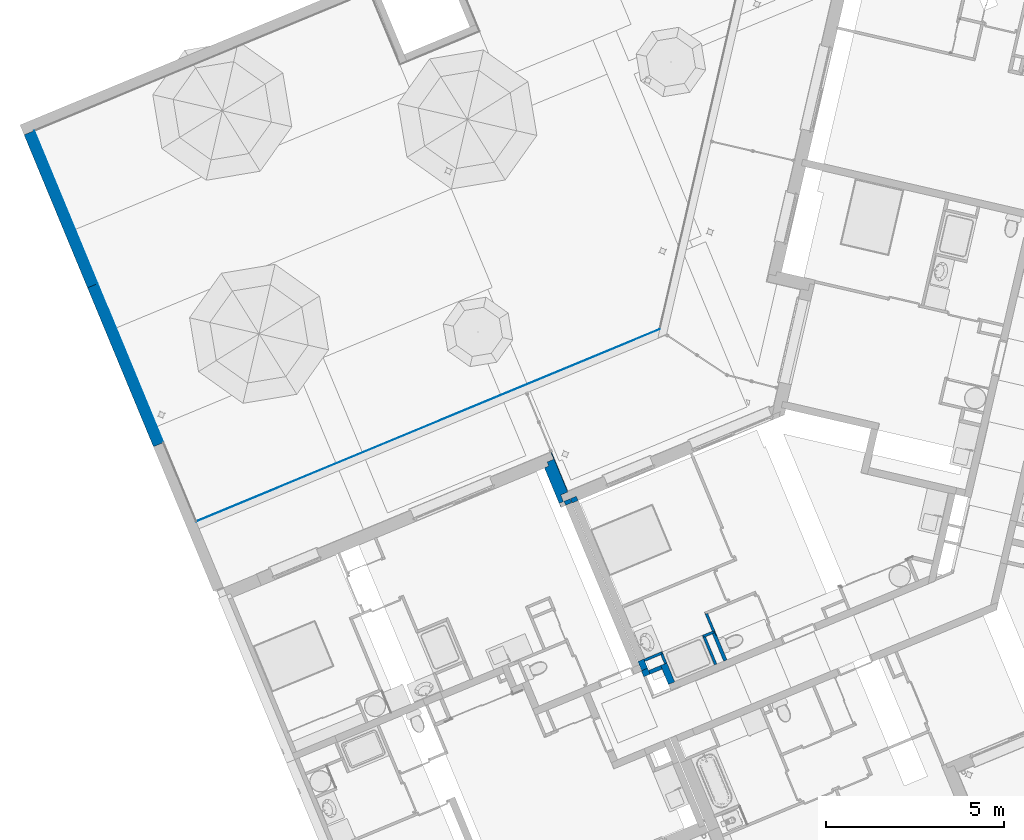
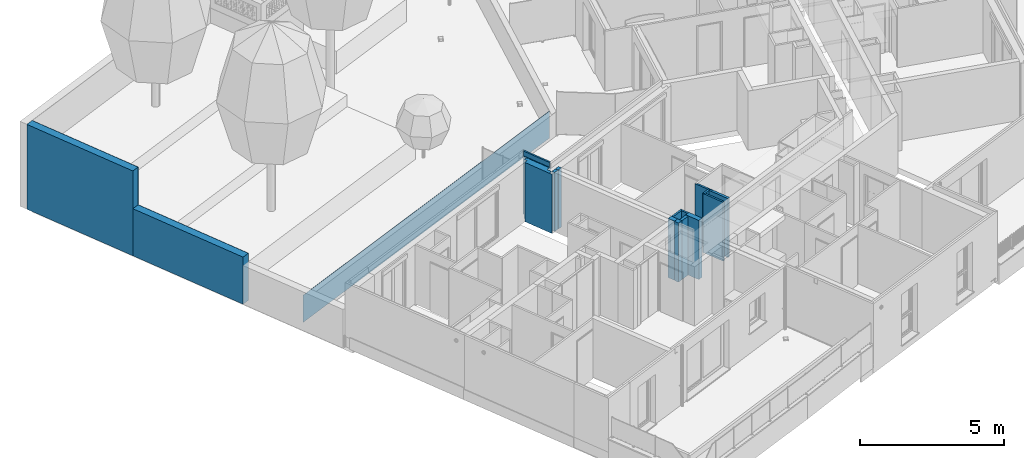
# One storey, part 41 of 119: 18 walls.
"""IFC2X3 building model written with IfcOpenShell, lengths in metres."""

from ifc_helpers import new_model, entity, si_unit, converted_unit, derived_unit, money_unit, direction, frame, origin_with_axes, place, context, subcontext, project, spatial, faceted_brep, material, material_list, type_object, element, save


model = new_model("IFC2X3")

# Units and contexts
model_context = context("Model", 3, precision=1e-05, world=origin_with_axes(), true_north=direction((0.0, 1.0)))
body_context = subcontext(model_context, "Body", "Model", "MODEL_VIEW")
ifc_project = project(units=[si_unit("LENGTHUNIT", "METRE"), si_unit("AREAUNIT", "SQUARE_METRE"), si_unit("VOLUMEUNIT", "CUBIC_METRE"), converted_unit("PLANEANGLEUNIT", "DEGREE", entity("IfcPlaneAngleMeasure", 0.0174532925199), si_unit("PLANEANGLEUNIT", "RADIAN"), dimensions=[0, 0, 0, 0, 0, 0, 0]), si_unit("SOLIDANGLEUNIT", "STERADIAN"), money_unit("EUR"), converted_unit("TIMEUNIT", "Year", entity("IfcTimeMeasure", 31556926.0), si_unit("TIMEUNIT", "SECOND"), dimensions=[0, 0, 1, 0, 0, 0, 0]), si_unit("MASSUNIT", "GRAM", prefix="KILO"), si_unit("THERMODYNAMICTEMPERATUREUNIT", "DEGREE_CELSIUS"), si_unit("LUMINOUSINTENSITYUNIT", "LUMEN"), si_unit("ENERGYUNIT", "JOULE", prefix="MEGA"), derived_unit("THERMALCONDUCTANCEUNIT", [(si_unit("POWERUNIT", "WATT"), 1), (si_unit("LENGTHUNIT", "METRE"), -1), (si_unit("THERMODYNAMICTEMPERATUREUNIT", "KELVIN"), -1)]), derived_unit("SPECIFICHEATCAPACITYUNIT", [(si_unit("ENERGYUNIT", "JOULE"), 1), (si_unit("MASSUNIT", "GRAM", prefix="KILO"), -1), (si_unit("THERMODYNAMICTEMPERATUREUNIT", "KELVIN"), -1)]), derived_unit("MASSDENSITYUNIT", [(si_unit("MASSUNIT", "GRAM", prefix="KILO"), 1), (si_unit("VOLUMEUNIT", "CUBIC_METRE"), -1)])], contexts=[model_context])

# Site, building, storey
site_placement = place(None, origin_with_axes())
site = spatial("IfcSite", under=ifc_project, at=site_placement, Name="Site", CompositionType="ELEMENT")
building_placement = place(site_placement, origin_with_axes())
building = spatial("IfcBuilding", under=site, at=building_placement, Name="Bâtiment", CompositionType="ELEMENT")
storey_placement = place(building_placement, origin_with_axes())
storey = spatial("IfcBuildingStorey", under=building, at=storey_placement, Name="Rez-de-chaussée", CompositionType="ELEMENT", Elevation=0.0)

# Walls
ifc_material_1 = material(Name="Béton")
wall_type_1 = type_object("IfcWallType", Name="Béton 300", PredefinedType="USERDEFINED")
wall_1_placement = place(storey_placement, frame((-40.5172807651, -5.0409499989, -0.03), z_axis=(0.0, 0.0, 1.0), x_axis=(0.383112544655, -0.923701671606, 0.0)))
element("IfcWall", 1, at=wall_1_placement, inside=storey, type_object=wall_type_1, material=ifc_material_1, Name="Voile projeté béton par passes alternées", ObjectType="SOLIDWALL", context=body_context, shape_type="Brep", body=[
    faceted_brep([(0.0, -0.3, 3.6), (4.64270582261, -0.3, 3.6), (4.64270582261, 0.0, 3.6), (0.0, 0.0, 3.6), (0.0, -0.3, 0.0), (4.64270582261, -0.3, 0.0), (4.64270582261, 0.0, 0.0), (0.0, 0.0, 0.0)], [[[0, 1, 2, 3]], [[4, 5, 1, 0]], [[2, 1, 5, 6]], [[3, 2, 6, 7]], [[4, 0, 3, 7]], [[7, 6, 5, 4]]]),
])
wall_2_placement = place(storey_placement, frame((-38.7386019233, -9.32942512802, -0.03), z_axis=(0.0, 0.0, 1.0), x_axis=(0.383112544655, -0.923701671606, 0.0)))
element("IfcWall", 2, at=wall_2_placement, inside=storey, type_object=wall_type_1, material=ifc_material_1, Name="Voile projeté béton par passes alternées", ObjectType="SOLIDWALL", context=body_context, shape_type="Brep", body=[
    faceted_brep([(0.0, -0.3, 2.0), (4.82319759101, -0.3, 2.0), (4.82319759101, 0.0, 2.0), (0.0, 0.0, 2.0), (0.0, -0.3, 0.0), (4.82319759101, -0.3, 0.0), (4.82319759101, 0.0, 0.0), (0.0, 0.0, 0.0)], [[[0, 1, 2, 3]], [[4, 5, 1, 0]], [[2, 1, 5, 6]], [[3, 2, 6, 7]], [[4, 0, 3, 7]], [[7, 6, 5, 4]]]),
])
ifc_material_2 = material(Name="Finition int - Plaque de plâtre")
ifc_material_3 = material(Name="Isolation - Laine de roche")
ifc_material_list_1 = material_list([ifc_material_2, ifc_material_3, ifc_material_2])
wall_type_2 = type_object("IfcWallType", Name="3 - Cloison 72mm Placostil 74", PredefinedType="USERDEFINED")
wall_3_placement = place(storey_placement, frame((-21.6551757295, -18.5120342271, 0.0), z_axis=(0.0, 0.0, 1.0), x_axis=(0.383112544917, -0.923701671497, 0.0)))
element("IfcWall", 3, at=wall_3_placement, inside=storey, type_object=wall_type_2, material=ifc_material_list_1, Name="Cloison Placostil 72/48", ObjectType="PARTITIONING", context=body_context, shape_type="Brep", body=[
    faceted_brep([(0.0740000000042, -0.013, 2.5), (0.573999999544, -0.013, 2.5), (0.573999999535, 0.0, 2.5), (0.074, 0.0, 2.5), (0.0740000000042, -0.013, 0.0), (0.573999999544, -0.013, 0.0), (0.573999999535, 0.0, 0.0), (0.074, 0.0, 0.0)], [[[0, 1, 2, 3]], [[4, 5, 1, 0]], [[5, 6, 2, 1]], [[3, 2, 6, 7]], [[4, 0, 3, 7]], [[7, 6, 5, 4]]]),
    faceted_brep([(0.0610000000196, -0.061, 2.5), (0.586999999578, -0.061, 2.5), (0.586999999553, -0.026, 2.5), (0.634999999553, -0.026, 2.5), (0.747999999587, -0.026, 2.5), (0.747999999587, -0.013, 2.5), (0.0610000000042, -0.013, 2.5), (0.0610000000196, -0.061, 0.0), (0.586999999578, -0.061, 0.0), (0.586999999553, -0.026, 0.0), (0.634999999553, -0.026, 0.0), (0.747999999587, -0.026, 0.0), (0.747999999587, -0.013, 0.0), (0.0610000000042, -0.013, 0.0)], [[[0, 1, 2, 3, 4, 5, 6]], [[7, 8, 1, 0]], [[9, 2, 1, 8]], [[4, 3, 2, 9, 10, 11]], [[5, 4, 11, 12]], [[12, 13, 6, 5]], [[7, 0, 6, 13]], [[10, 9, 8, 7, 13, 12, 11]]]),
    faceted_brep([(0.0130000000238, -0.074, 2.5), (0.573999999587, -0.074, 2.5), (0.573999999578, -0.061, 2.5), (0.0130000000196, -0.061, 2.5), (0.0130000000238, -0.074, 0.0), (0.573999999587, -0.074, 0.0), (0.573999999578, -0.061, 0.0), (0.0130000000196, -0.061, 0.0)], [[[0, 1, 2, 3]], [[4, 5, 1, 0]], [[5, 6, 2, 1]], [[3, 2, 6, 7]], [[4, 0, 3, 7]], [[7, 6, 5, 4]]]),
])
wall_type_3 = type_object("IfcWallType", Name="3 - Cloison Gaine Technique 72mm 74", PredefinedType="USERDEFINED")
wall_4_placement = place(storey_placement, frame((-23.5869322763, -19.9205844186, 0.0), z_axis=(0.0, 0.0, 1.0), x_axis=(0.923701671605, 0.383112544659, 0.0)))
element("IfcWall", 4, at=wall_4_placement, inside=storey, type_object=wall_type_3, material=ifc_material_list_1, Name="Cloison Placostil 72/48", ObjectType="PARTITIONING", context=body_context, shape_type="Brep", body=[
    faceted_brep([(0.735366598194, 0.0, 2.5), (0.18, -2.21493934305e-10, 2.5), (0.180000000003, -0.013, 2.5), (0.735366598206, -0.013, 2.5), (0.735366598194, 0.0, 0.0), (0.18, -2.21493934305e-10, 0.0), (0.180000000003, -0.013, 0.0), (0.735366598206, -0.013, 0.0)], [[[0, 1, 2, 3]], [[4, 5, 1, 0]], [[5, 6, 2, 1]], [[3, 2, 6, 7]], [[4, 0, 3, 7]], [[7, 6, 5, 4]]]),
    faceted_brep([(0.722366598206, -0.013, 2.5), (0.180000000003, -0.013, 2.5), (0.180000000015, -0.061, 2.5), (0.722366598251, -0.061, 2.5), (0.722366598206, -0.013, 0.0), (0.180000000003, -0.013, 0.0), (0.180000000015, -0.061, 0.0), (0.722366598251, -0.061, 0.0)], [[[0, 1, 2, 3]], [[4, 5, 1, 0]], [[5, 6, 2, 1]], [[3, 2, 6, 7]], [[4, 0, 3, 7]], [[7, 6, 5, 4]]]),
    faceted_brep([(0.674366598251, -0.061, 2.5), (0.180000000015, -0.061, 2.5), (0.180000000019, -0.074, 2.5), (0.674366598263, -0.074, 2.5), (0.674366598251, -0.061, 0.0), (0.180000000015, -0.061, 0.0), (0.180000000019, -0.074, 0.0), (0.674366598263, -0.074, 0.0)], [[[0, 1, 2, 3]], [[4, 5, 1, 0]], [[5, 6, 2, 1]], [[3, 2, 6, 7]], [[4, 0, 3, 7]], [[7, 6, 5, 4]]]),
])
wall_5_placement = place(storey_placement, frame((-21.7850134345, -19.1872981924, 0.0), z_axis=(0.0, 0.0, 1.0), x_axis=(0.923701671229, 0.383112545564, 0.0)))
element("IfcWall", 5, at=wall_5_placement, inside=storey, type_object=wall_type_3, material=ifc_material_list_1, Name="Cloison Placostil 72/48", ObjectType="PARTITIONING", context=body_context, shape_type="Brep", body=[
    faceted_brep([(0.0, -0.013, 0.0), (0.317633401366, -0.013, 0.0), (0.317633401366, -0.013, 2.5), (0.0, -0.013, 2.5), (0.0, 0.0, 0.0), (0.317633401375, 0.0, 0.0), (0.317633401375, 0.0, 2.5), (0.0, 0.0, 2.5)], [[[0, 1, 2, 3]], [[4, 5, 1, 0]], [[5, 6, 2, 1]], [[3, 2, 6, 7]], [[4, 0, 3, 7]], [[7, 6, 5, 4]]]),
    faceted_brep([(0.013, -0.061, 2.5), (0.352633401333, -0.061, 2.5), (0.352633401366, -0.013, 2.5), (0.013, -0.013, 2.5), (0.013, -0.061, 0.0), (0.352633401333, -0.061, 0.0), (0.352633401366, -0.013, 0.0), (0.013, -0.013, 0.0)], [[[0, 1, 2, 3]], [[4, 5, 1, 0]], [[6, 2, 1, 5]], [[3, 2, 6, 7]], [[7, 4, 0, 3]], [[7, 6, 5, 4]]]),
    faceted_brep([(0.061, -0.074, 2.5), (0.291633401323, -0.074, 2.5), (0.291633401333, -0.061, 2.5), (0.061, -0.061, 2.5), (0.061, -0.074, 0.0), (0.291633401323, -0.074, 0.0), (0.291633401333, -0.061, 0.0), (0.061, -0.061, 0.0)], [[[0, 1, 2, 3]], [[4, 5, 1, 0]], [[6, 2, 1, 5]], [[3, 2, 6, 7]], [[7, 4, 0, 3]], [[7, 6, 5, 4]]]),
])
wall_6_placement = place(storey_placement, frame((-21.7850134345, -19.1872981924, 0.0), z_axis=(0.0, 0.0, 1.0), x_axis=(0.383112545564, -0.923701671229, 0.0)))
element("IfcWall", 6, at=wall_6_placement, inside=storey, type_object=wall_type_3, material=ifc_material_list_1, Name="Cloison Placostil 72/48", ObjectType="PARTITIONING", context=body_context, shape_type="Brep", body=[
    faceted_brep([(0.074, 0.074, 0.0), (0.899999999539, 0.074, 0.0), (0.899999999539, 0.061, 0.0), (0.074, 0.061, 0.0), (0.074, 0.074, 2.5), (0.899999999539, 0.074, 2.5), (0.899999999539, 0.061, 2.5), (0.074, 0.061, 2.5)], [[[0, 1, 2, 3]], [[4, 5, 1, 0]], [[2, 1, 5, 6]], [[3, 2, 6, 7]], [[4, 0, 3, 7]], [[7, 6, 5, 4]]]),
    faceted_brep([(0.061, 0.061, 0.0), (0.899999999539, 0.061, 0.0), (0.899999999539, 0.013, 0.0), (0.061, 0.013, 0.0), (0.061, 0.061, 2.5), (0.899999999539, 0.061, 2.5), (0.899999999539, 0.013, 2.5), (0.061, 0.013, 2.5)], [[[0, 1, 2, 3]], [[4, 5, 1, 0]], [[2, 1, 5, 6]], [[3, 2, 6, 7]], [[4, 0, 3, 7]], [[7, 6, 5, 4]]]),
    faceted_brep([(0.013, 0.013, 0.0), (0.899999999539, 0.013, 0.0), (0.899999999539, 0.0, 0.0), (0.013, 0.0, 0.0), (0.013, 0.013, 2.5), (0.899999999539, 0.013, 2.5), (0.899999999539, 0.0, 2.5), (0.013, 0.0, 2.5)], [[[0, 1, 2, 3]], [[4, 5, 1, 0]], [[2, 1, 5, 6]], [[3, 2, 6, 7]], [[4, 0, 3, 7]], [[7, 6, 5, 4]]]),
])
wall_7_placement = place(storey_placement, frame((-22.9076729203, -19.6388562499, 0.0), z_axis=(0.0, 0.0, 1.0), x_axis=(0.383112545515, -0.923701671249, 0.0)))
element("IfcWall", 7, at=wall_7_placement, inside=storey, type_object=wall_type_3, material=ifc_material_list_1, Name="Cloison Placostil 72/48", ObjectType="PARTITIONING", context=body_context, shape_type="Brep", body=[
    faceted_brep([(0.0129999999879, -0.013, 2.5), (0.347364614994, -0.013, 2.5), (0.347364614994, 0.0, 2.5), (0.013, 0.0, 2.5), (0.0129999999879, -0.013, 0.0), (0.347364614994, -0.013, 0.0), (0.347364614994, 0.0, 0.0), (0.013, 0.0, 0.0)], [[[0, 1, 2, 3]], [[4, 5, 1, 0]], [[2, 1, 5, 6]], [[3, 2, 6, 7]], [[4, 0, 3, 7]], [[7, 6, 5, 4]]]),
    faceted_brep([(0.0609999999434, -0.061, 2.5), (0.347364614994, -0.061, 2.5), (0.347364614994, -0.013, 2.5), (0.0609999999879, -0.013, 2.5), (0.0609999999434, -0.061, 0.0), (0.347364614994, -0.061, 0.0), (0.347364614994, -0.013, 0.0), (0.0609999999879, -0.013, 0.0)], [[[0, 1, 2, 3]], [[4, 5, 1, 0]], [[2, 1, 5, 6]], [[3, 2, 6, 7]], [[4, 0, 3, 7]], [[7, 6, 5, 4]]]),
    faceted_brep([(0.0739999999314, -0.074, 2.5), (0.347364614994, -0.074, 2.5), (0.347364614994, -0.061, 2.5), (0.0739999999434, -0.061, 2.5), (0.0739999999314, -0.074, 0.0), (0.347364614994, -0.074, 0.0), (0.347364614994, -0.061, 0.0), (0.0739999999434, -0.061, 0.0)], [[[0, 1, 2, 3]], [[4, 5, 1, 0]], [[2, 1, 5, 6]], [[3, 2, 6, 7]], [[4, 0, 3, 7]], [[7, 6, 5, 4]]]),
])
ifc_material_4 = material(Name="Finition int - Enduit plâtre")
ifc_material_list_2 = material_list([ifc_material_4, ifc_material_1])
wall_type_4 = type_object("IfcWallType", Name="2 - Murs Béton 18 + Enduit 1 Face 190", PredefinedType="USERDEFINED")
wall_8_placement = place(storey_placement, frame((-22.950096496, -20.0325089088, 0.0), z_axis=(0.0, 0.0, 1.0), x_axis=(0.383112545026, -0.923701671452, 0.0)))
element("IfcWall", 8, at=wall_8_placement, inside=storey, type_object=wall_type_4, material=ifc_material_list_2, Name="M_Ext-008", ObjectType="SOLIDWALL", context=body_context, shape_type="Brep", body=[
    faceted_brep([(0.565635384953, 0.18, 2.51), (0.565635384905, 0.18, 0.0), (0.565635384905, 0.19, 0.0), (0.565635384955, 0.19, 2.51), (0.0, 0.18, 0.0), (0.0, 0.18, 2.51), (0.0, 0.19, 0.0), (0.0, 0.19, 2.51)], [[[0, 1, 2, 3]], [[4, 1, 0, 5]], [[6, 2, 1, 4]], [[3, 2, 6, 7]], [[5, 0, 3, 7]], [[4, 5, 7, 6]]]),
    faceted_brep([(0.575635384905, 0.0, 2.51), (0.575635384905, 0.0, 0.0), (0.575635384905, 0.18, 0.0), (0.575635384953, 0.18, 2.51), (0.0, 0.0, 0.0), (0.0, 0.0, 2.51), (0.0, 0.18, 0.0), (0.0, 0.18, 2.51)], [[[0, 1, 2, 3]], [[4, 1, 0, 5]], [[6, 2, 1, 4]], [[3, 2, 6, 7]], [[5, 0, 3, 7]], [[4, 5, 7, 6]]]),
])
ifc_material_list_3 = material_list([ifc_material_1, ifc_material_4])
wall_9_placement = place(storey_placement, frame((-23.4800102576, -20.178378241, 0.0), z_axis=(0.0, 0.0, 1.0), x_axis=(0.383112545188, -0.923701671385, 0.0)))
element("IfcWall", 9, at=wall_9_placement, inside=storey, type_object=wall_type_4, material=ifc_material_list_3, Name="M_Ext-008", ObjectType="SOLIDWALL", context=body_context, shape_type="Brep", body=[
    faceted_brep([(0.179276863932, 0.0, 2.5099999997), (0.179276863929, 0.0, 2.5), (0.179276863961, 0.18, 2.5), (0.179276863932, 0.18, 2.5099999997), (0.0, 0.0, 0.0), (0.179276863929, 0.0, 0.0), (0.0, 0.0, 2.51), (0.179276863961, 0.18, 0.0), (0.0, 0.18, 0.0), (0.0, 0.18, 2.51)], [[[0, 1, 2, 3]], [[4, 5, 1, 0, 6]], [[5, 7, 2, 1]], [[3, 2, 7, 8, 9]], [[6, 0, 3, 9]], [[8, 7, 5, 4]], [[8, 4, 6, 9]]]),
    faceted_brep([(0.179276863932, -0.01, 2.5099999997), (0.179276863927, -0.01, 2.5), (0.179276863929, 0.0, 2.5), (0.179276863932, 0.0, 2.5099999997), (0.0, -0.01, 0.0), (0.179276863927, -0.01, 0.0), (0.0, -0.01, 2.51), (0.179276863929, 0.0, 0.0), (0.0, 0.0, 0.0), (0.0, 0.0, 2.51)], [[[0, 1, 2, 3]], [[4, 5, 1, 0, 6]], [[5, 7, 2, 1]], [[3, 2, 7, 8, 9]], [[6, 0, 3, 9]], [[8, 7, 5, 4]], [[8, 4, 6, 9]]]),
])
wall_type_5 = type_object("IfcWallType", Name="Béton 180", PredefinedType="USERDEFINED")
wall_10_placement = place(storey_placement, frame((-23.5869322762, -19.9205844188, 0.0), z_axis=(0.0, 0.0, 1.0), x_axis=(0.383112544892, -0.923701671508, 0.0)))
element("IfcWall", 10, at=wall_10_placement, inside=storey, type_object=wall_type_5, material=ifc_material_1, Name="M_Ext-008", ObjectType="SOLIDWALL", context=body_context, shape_type="Brep", body=[
    faceted_brep([(0.279087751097, 0.18, 0.0), (0.279087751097, 0.0, 0.0), (0.0, 0.0, 0.0), (0.0, 0.18, 0.0), (0.279087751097, 0.18, 2.51), (0.279087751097, 0.0, 2.51), (0.0, 0.0, 2.51), (0.0, 0.18, 2.51)], [[[0, 1, 2, 3]], [[0, 4, 5, 1]], [[1, 5, 6, 2]], [[3, 2, 6, 7]], [[4, 0, 3, 7]], [[5, 4, 7, 6]]]),
])
wall_11_placement = place(storey_placement, frame((-25.4894111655, -15.3597237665, 0.0), z_axis=(0.0, 0.0, 1.0), x_axis=(0.383112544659, -0.923701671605, 0.0)))
element("IfcWall", 11, at=wall_11_placement, inside=storey, type_object=wall_type_5, material=ifc_material_1, Name="M_Ext-008", ObjectType="SOLIDWALL", context=body_context, shape_type="Brep", body=[
    faceted_brep([(0.0, 0.0, 0.0), (0.0, -1.31782229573e-09, 2.51), (0.119999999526, -1.28752830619e-09, 2.51), (0.119999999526, 0.0, 0.0), (0.0, -0.18, 0.0), (0.0, -0.18, 2.51), (0.119999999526, -0.18, 2.51), (0.119999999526, -0.18, 0.0)], [[[0, 1, 2, 3]], [[4, 5, 1, 0]], [[5, 6, 2, 1]], [[3, 2, 6, 7]], [[4, 0, 3, 7]], [[7, 6, 5, 4]]]),
])
wall_12_placement = place(storey_placement, frame((-25.4801741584, -15.3558926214, 0.0), z_axis=(0.0, 0.0, 1.0), x_axis=(0.383112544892, -0.923701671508, 0.0)))
element("IfcWall", 12, at=wall_12_placement, inside=storey, type_object=wall_type_5, material=ifc_material_1, Name="M_Ext-008", ObjectType="SOLIDWALL", context=body_context, shape_type="Brep", body=[
    faceted_brep([(0.0, 0.18, 0.0), (0.0, 0.18, 2.51), (0.130000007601, 0.18, 2.51), (0.130000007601, 0.18, 0.0), (0.0, 0.0, 0.0), (0.0, 3.90128107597e-09, 2.51), (0.130000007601, 3.85107767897e-09, 2.51), (0.130000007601, 0.0, 0.0)], [[[0, 1, 2, 3]], [[4, 5, 1, 0]], [[5, 6, 2, 1]], [[3, 2, 6, 7]], [[4, 0, 3, 7]], [[7, 6, 5, 4]]]),
])
ifc_material_5 = material(Name="Isolation - Polystyrène extrudé")
ifc_material_6 = material(Name="Bloc ELITHERM")
ifc_material_7 = material(Name="Mortier")
ifc_material_8 = material(Name="Béton cellulaire")
ifc_material_9 = material(Name="Etanchéité - Bitume")
ifc_material_10 = material(Name="Finition ext - Crépis")
ifc_material_11 = material(Name="Métal - Aluminium")
ifc_material_list_4 = material_list([ifc_material_2, ifc_material_5, ifc_material_6, ifc_material_7, ifc_material_8, ifc_material_9, ifc_material_10, ifc_material_11])
wall_type_6 = type_object("IfcWallType", Name="Mur ALKERN + planelle 21 TERRASSE RDC 356 x 2720", PredefinedType="USERDEFINED")
wall_13_placement = place(storey_placement, frame((-25.5579248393, -15.1553812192, 0.0), z_axis=(0.0, 0.0, 1.0), x_axis=(-0.383112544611, 0.923701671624, 0.0)))
element("IfcWall", 13, at=wall_13_placement, inside=storey, type_object=wall_type_6, material=ifc_material_list_4, Name="Mue bloc ALKERN isolé", ObjectType="SOLIDWALL", context=body_context, shape_type="Brep", body=[
    faceted_brep([(0.855000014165, 0.335000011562, 0.176532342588), (0.855000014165, 0.335000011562, 0.207793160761), (0.855000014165, 0.335000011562, 2.50955001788), (-0.335000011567, 0.335000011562, 2.50955001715), (-0.335000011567, 0.335000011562, 0.207793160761), (-0.335000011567, 0.335000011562, 0.176532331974), (-0.335000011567, 0.335000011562, 0.169414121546), (-0.335000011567, 0.335000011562, 0.160000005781), (-0.335000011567, 0.335000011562, 0.133633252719), (-0.335000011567, 0.335000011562, 0.0), (0.855000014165, 0.335000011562, 0.0), (0.855000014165, 0.335000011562, 0.1336332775), (0.855000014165, 0.335000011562, 0.160000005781), (0.855000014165, 0.335000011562, 0.169414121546), (0.855000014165, 0.344999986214, 0.176532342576), (0.855000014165, 0.344999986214, 0.207793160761), (0.855000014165, 0.344999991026, 2.50955001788), (-0.335000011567, 0.345000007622, 2.50955001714), (-0.335000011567, 0.345000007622, 0.207793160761), (-0.335000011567, 0.345000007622, 0.176532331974), (-0.335000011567, 0.345000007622, 0.169414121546), (-0.335000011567, 0.345000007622, 0.160000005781), (-0.335000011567, 0.345000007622, 0.133633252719), (-0.335000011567, 0.345000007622, 0.0), (0.855000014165, 0.344999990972, 0.0), (0.855000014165, 0.344999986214, 0.133633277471), (0.855000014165, 0.344999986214, 0.160000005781), (0.855000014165, 0.344999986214, 0.169414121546)], [[[0, 1, 2, 3, 4, 5, 6, 7, 8, 9, 10, 11, 12, 13]], [[14, 15, 1, 0]], [[15, 16, 2, 1]], [[3, 2, 16, 17]], [[18, 4, 3, 17]], [[5, 4, 18, 19]], [[19, 20, 6, 5]], [[6, 20, 21, 7]], [[22, 8, 7, 21]], [[9, 8, 22, 23]], [[9, 23, 24, 10]], [[11, 10, 24, 25]], [[25, 26, 12, 11]], [[27, 13, 12, 26]], [[13, 27, 14, 0]], [[17, 16, 15, 14, 27, 26, 25, 24, 23, 22, 21, 20, 19, 18]]]),
    faceted_brep([(0.864999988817, 0.21499997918, 0.176532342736), (0.864999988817, 0.21499997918, 0.207793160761), (0.864999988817, 0.21499997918, 2.50955001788), (-0.214999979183, 0.21499997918, 2.50955001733), (-0.214999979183, 0.21499997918, 0.207793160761), (-0.214999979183, 0.21499997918, 0.176532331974), (-0.214999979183, 0.21499997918, 0.169414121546), (-0.214999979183, 0.21499997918, 0.160000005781), (-0.214999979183, 0.21499997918, 0.133633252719), (-0.214999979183, 0.21499997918, 0.0), (0.864999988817, 0.21499997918, 0.0), (0.864999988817, 0.21499997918, 0.133633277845), (0.864999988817, 0.21499997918, 0.160000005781), (0.864999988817, 0.21499997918, 0.169414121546), (0.864999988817, 0.335000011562, 0.176532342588), (0.864999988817, 0.335000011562, 0.207793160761), (0.864999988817, 0.335000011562, 2.50955001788), (-0.214999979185, 0.335000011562, 2.50955001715), (-0.214999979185, 0.335000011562, 0.207793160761), (-0.214999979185, 0.335000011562, 0.176532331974), (-0.214999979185, 0.335000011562, 0.169414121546), (-0.214999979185, 0.335000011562, 0.160000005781), (-0.214999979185, 0.335000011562, 0.133633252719), (-0.214999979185, 0.335000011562, 0.0), (0.864999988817, 0.335000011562, 0.0), (0.864999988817, 0.335000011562, 0.1336332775), (0.864999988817, 0.335000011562, 0.160000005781), (0.864999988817, 0.335000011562, 0.169414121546)], [[[0, 1, 2, 3, 4, 5, 6, 7, 8, 9, 10, 11, 12, 13]], [[14, 15, 1, 0]], [[15, 16, 2, 1]], [[3, 2, 16, 17]], [[4, 3, 17, 18]], [[4, 18, 19, 5]], [[20, 6, 5, 19]], [[20, 21, 7, 6]], [[8, 7, 21, 22]], [[8, 22, 23, 9]], [[9, 23, 24, 10]], [[11, 10, 24, 25]], [[25, 26, 12, 11]], [[27, 13, 12, 26]], [[13, 27, 14, 0]], [[17, 16, 15, 14, 27, 26, 25, 24, 23, 22, 21, 20, 19, 18]]]),
    faceted_brep([(0.98500000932, 0.015, 0.207793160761), (0.98500000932, 0.015, 2.50955001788), (-0.0150000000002, 0.015, 2.50955001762), (-0.0150000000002, 0.015, 0.207793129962), (0.98500000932, 0.0829999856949, 2.50955001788), (0.98500000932, 0.0160453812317, 0.207793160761), (0.98500000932, 0.214999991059, 0.207793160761), (0.98500000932, 0.214999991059, 2.50955001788), (-0.0150000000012, 0.0829999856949, 2.50955001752), (-0.015000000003, 0.214999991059, 0.207793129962), (-0.0150000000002, 0.0160453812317, 0.207793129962), (-0.015000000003, 0.214999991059, 2.50955001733), (0.98500000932, 0.0160453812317, 0.176532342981), (0.98500000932, 0.214999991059, 0.176532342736), (0.98500000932, 0.214999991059, 0.169414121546), (0.98500000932, 0.214999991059, 0.160000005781), (0.98500000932, 0.214999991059, 0.133633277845), (0.98500000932, 0.214999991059, 0.0), (-0.015000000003, 0.214999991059, 0.0), (-0.0150000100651, 0.214999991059, 0.133633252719), (-0.0150000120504, 0.214999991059, 0.160000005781), (-0.015000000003, 0.214999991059, 0.169414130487), (-0.0160453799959, 0.214999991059, 0.169727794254), (-0.0160453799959, 0.214999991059, 0.176532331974), (-0.0160453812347, 0.214999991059, 0.207793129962), (-0.0160453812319, 0.0160453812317, 0.207793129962), (-0.0160453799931, 0.0160453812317, 0.176532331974), (-0.0160453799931, 0.0160453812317, 0.169727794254), (0.98500000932, 0.0160453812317, 0.169727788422), (0.98500000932, 0.015, 0.169414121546), (0.98500000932, 0.0150000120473, 0.160000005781), (0.98500000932, 0.015, 0.133633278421), (0.98500000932, 0.015, 0.0), (-0.0150000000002, 0.015, 0.0), (-0.0150000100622, 0.015, 0.133633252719), (-0.0150000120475, 0.0150000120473, 0.160000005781), (-0.0150000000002, 0.015, 0.169414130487)], [[[0, 1, 2, 3]], [[4, 1, 0, 5, 6, 7]], [[1, 4, 8, 2]], [[9, 10, 3, 2, 8, 11]], [[5, 0, 3, 10]], [[6, 5, 12, 13]], [[7, 6, 13, 14, 15, 16, 17, 18, 19, 20, 21, 22, 23, 24, 9, 11]], [[4, 7, 11, 8]], [[10, 9, 24, 25]], [[12, 5, 10, 25, 26, 27, 28]], [[13, 12, 28, 29, 14]], [[29, 30, 15, 14]], [[15, 30, 31, 16]], [[32, 17, 16, 31]], [[18, 17, 32, 33]], [[18, 33, 34, 19]], [[20, 19, 34, 35]], [[35, 36, 21, 20]], [[22, 21, 36, 27]], [[26, 23, 22, 27]], [[23, 26, 25, 24]], [[28, 27, 36, 29]], [[30, 29, 36, 35]], [[35, 34, 33, 32, 31, 30]]]),
    faceted_brep([(1.11700000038, 0.015, 2.50955), (1.11700000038, 0.015, 2.51), (1.11700000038, 0.015, 2.52), (-0.0150000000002, 0.015, 2.51999998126), (-0.0150000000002, 0.015, 2.51), (-0.0150000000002, 0.015, 2.50955001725), (1.11700000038, 0.083, 2.51), (1.11700000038, 0.0829999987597, 2.50955), (1.11700000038, 0.083000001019, 2.52), (-0.0150000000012, 0.0830000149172, 2.51999998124), (-0.0150000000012, 0.0829999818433, 2.51), (-0.0150000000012, 0.0829999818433, 2.50955001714)], [[[0, 1, 2, 3, 4, 5]], [[6, 1, 0, 7]], [[1, 6, 8, 2]], [[9, 3, 2, 8]], [[10, 4, 3, 9]], [[5, 4, 10, 11]], [[7, 0, 5, 11]], [[6, 7, 11, 10, 9, 8]]]),
    faceted_brep([(1.13700000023, 0.015, 2.51999999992), (1.13700000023, 0.015, 2.71999999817), (-0.0150000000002, 0.015, 2.71999999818), (-0.0150000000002, 0.015, 2.51999998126), (1.13700000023, 0.0630000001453, 2.71999999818), (1.13700000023, 0.0630000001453, 2.51999999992), (-0.0150000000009, 0.0630000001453, 2.71999999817), (-0.0150000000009, 0.0630000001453, 2.51999998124)], [[[0, 1, 2, 3]], [[4, 1, 0, 5]], [[1, 4, 6, 2]], [[3, 2, 6, 7]], [[5, 0, 3, 7]], [[4, 5, 7, 6]]]),
    faceted_brep([(-0.00500000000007, 0.00508333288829, 0.0), (-0.00500000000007, 0.00508333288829, 0.01), (-0.00500000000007, 0.005, 0.01), (-0.00500000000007, 0.005, 0.133633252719), (-0.00500000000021, 0.0150000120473, 0.133633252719), (-0.00500000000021, 0.0150000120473, 0.0), (1.18500001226, 0.0149999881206, 0.0), (1.18500001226, 0.0149999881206, 0.01), (1.18499998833, 0.00500000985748, 0.01), (1.18499998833, 0.00500000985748, 0.13363327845), (1.18499998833, 0.005, 0.160000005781), (-0.00500000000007, 0.005, 0.160000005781), (-0.00500000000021, 0.0150000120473, 0.160000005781), (1.18499998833, 0.0150000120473, 0.160000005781), (1.18499998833, 0.0150000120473, 0.133633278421)], [[[0, 1, 2, 3, 4, 5]], [[1, 0, 6, 7]], [[8, 2, 1, 7]], [[2, 8, 9, 10, 11, 3]], [[4, 3, 11, 12]], [[7, 6, 5, 4, 12, 13, 14]], [[6, 0, 5]], [[8, 7, 14, 9]], [[14, 13, 10, 9]], [[11, 10, 13, 12]]]),
    faceted_brep([(1.18500000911, -1.78520807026e-08, 2.71999999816), (-3.18861737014e-09, 3.18861737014e-09, 2.71999999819), (-3.18861737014e-09, 3.18861381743e-09, 0.176532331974), (1.18499996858, -3.24618660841e-08, 0.176532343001), (1.18500000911, 0.0149999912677, 2.71999999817), (-3.18882875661e-09, 0.0149999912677, 2.71999999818), (-3.18883053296e-09, 0.0150000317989, 0.176532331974), (1.18499996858, 0.0150000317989, 0.176532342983)], [[[0, 1, 2, 3]], [[1, 0, 4, 5]], [[2, 1, 5, 6]], [[7, 3, 2, 6]], [[4, 0, 3, 7]], [[5, 4, 7, 6]]]),
    faceted_brep([(1.18395460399, 0.0150000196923, 0.176532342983), (1.18395460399, 0.015, 0.207793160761), (-0.0150000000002, 0.015, 0.207793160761), (-0.0150000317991, 0.0150000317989, 0.176532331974), (1.18395460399, 0.0160453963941, 0.207793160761), (1.18395460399, 0.0160453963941, 0.176532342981), (-0.0150000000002, 0.0160453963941, 0.207793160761), (-0.0150000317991, 0.0160453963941, 0.176532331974), (-0.0150000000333, 0.015, 0.17077486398), (1.18395460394, 0.0150000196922, 0.170774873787), (1.18395460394, 0.0114705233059, 0.169727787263), (1.18395460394, 0.0160453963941, 0.169727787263), (-0.011470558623, 0.0160453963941, 0.169727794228), (-0.0150000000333, 0.0160453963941, 0.17077486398), (-0.0104132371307, 0.0104132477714, 0.169414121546), (0.0114392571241, -0.0114392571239, 0.162931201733), (1.2066098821, -0.0114392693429, 0.162931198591), (1.1850000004, 0.010413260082, 0.169414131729), (1.1850000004, 0.015, 0.169414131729), (-0.0104132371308, 0.015, 0.169414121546), (0.011439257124, -0.00660987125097, 0.162931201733), (0.0114392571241, -0.0114392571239, 0.160000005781), (0.0114392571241, -0.0114392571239, 0.133633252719), (1.21020517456, -0.0114392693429, 0.133633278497), (1.21020517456, -0.0114392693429, 0.160000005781), (1.21020517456, -0.0114392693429, 0.161852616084), (1.21020517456, -0.0102051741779, 0.161852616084), (0.011439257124, -0.0102051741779, 0.161852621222), (0.011439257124, -0.0102051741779, 0.160000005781), (0.011439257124, -0.0102051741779, 0.133633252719), (1.21020517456, -0.0102051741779, 0.133633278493), (1.21020517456, -0.0102051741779, 0.160000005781)], [[[0, 1, 2, 3]], [[4, 1, 0, 5]], [[1, 4, 6, 2]], [[6, 7, 3, 2]], [[3, 8, 9, 0]], [[5, 0, 9, 10, 11]], [[4, 5, 11, 12, 13, 7, 6]], [[13, 8, 3, 7]], [[9, 8, 14, 15, 16, 17, 10]], [[18, 11, 10, 17]], [[19, 12, 11, 18]], [[13, 12, 19, 14, 8]], [[19, 20, 15, 14]], [[15, 21, 22, 23, 24, 25, 16]], [[26, 18, 17, 16, 25]], [[19, 18, 26, 27, 20]], [[27, 28, 21, 15, 20]], [[21, 28, 29, 22]], [[29, 30, 23, 22]], [[24, 23, 30, 31]], [[24, 31, 26, 25]], [[31, 30, 29, 28, 27, 26]]]),
])
ifc_material_list_5 = material_list([ifc_material_2, ifc_material_2, ifc_material_3, ifc_material_2, ifc_material_2])
wall_type_7 = type_object("IfcWallType", Name="3 - Cloison Gaine Technique 98mm 100", PredefinedType="USERDEFINED")
wall_14_placement = place(storey_placement, frame((-21.4352691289, -19.0422389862, 0.0), z_axis=(0.0, 0.0, 1.0), x_axis=(0.383112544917, -0.923701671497, 0.0)))
element("IfcWall", 14, at=wall_14_placement, inside=storey, type_object=wall_type_7, material=ifc_material_list_5, Name="Cloison 98 isolée", ObjectType="PARTITIONING", context=body_context, shape_type="Brep", body=[
    faceted_brep([(0.0, 0.0, 2.5), (0.0, -0.013, 2.5), (0.900000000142, -0.013, 2.5), (0.900000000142, 0.0, 2.5), (0.0, 0.0, 0.0), (0.0, -0.013, 0.0), (0.900000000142, -0.013, 0.0), (0.900000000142, 0.0, 0.0)], [[[0, 1, 2, 3]], [[4, 5, 1, 0]], [[1, 5, 6, 2]], [[7, 3, 2, 6]], [[4, 0, 3, 7]], [[5, 4, 7, 6]]]),
    faceted_brep([(0.900000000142, -0.013, 0.0), (0.174000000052, -0.013, 0.0), (0.174000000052, -0.013, 2.5), (0.900000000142, -0.013, 2.5), (0.900000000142, -0.026, 0.0), (0.174000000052, -0.026, 0.0), (0.174000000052, -0.026, 2.5), (0.900000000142, -0.026, 2.5)], [[[0, 1, 2, 3]], [[4, 5, 1, 0]], [[5, 6, 2, 1]], [[3, 2, 6, 7]], [[0, 3, 7, 4]], [[7, 6, 5, 4]]]),
    faceted_brep([(0.0610000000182, -0.026, 2.5), (0.0610000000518, -0.074, 2.5), (0.900000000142, -0.074, 2.5), (0.900000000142, -0.026, 2.5), (0.0610000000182, -0.026, 0.0), (0.0610000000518, -0.074, 0.0), (0.900000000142, -0.074, 0.0), (0.900000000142, -0.026, 0.0)], [[[0, 1, 2, 3]], [[4, 5, 1, 0]], [[1, 5, 6, 2]], [[7, 3, 2, 6]], [[4, 0, 3, 7]], [[5, 4, 7, 6]]]),
    faceted_brep([(0.0610000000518, -0.074, 2.5), (0.0610000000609, -0.087, 2.5), (0.900000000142, -0.087, 2.5), (0.900000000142, -0.074, 2.5), (0.0610000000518, -0.074, 0.0), (0.0610000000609, -0.087, 0.0), (0.900000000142, -0.087, 0.0), (0.900000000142, -0.074, 0.0)], [[[0, 1, 2, 3]], [[4, 5, 1, 0]], [[1, 5, 6, 2]], [[7, 3, 2, 6]], [[4, 0, 3, 7]], [[5, 4, 7, 6]]]),
    faceted_brep([(0.0740000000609, -0.087, 2.5), (0.07400000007, -0.1, 2.5), (0.900000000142, -0.1, 2.5), (0.900000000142, -0.087, 2.5), (0.0740000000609, -0.087, 0.0), (0.07400000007, -0.1, 0.0), (0.900000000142, -0.1, 0.0), (0.900000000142, -0.087, 0.0)], [[[0, 1, 2, 3]], [[4, 5, 1, 0]], [[1, 5, 6, 2]], [[7, 3, 2, 6]], [[4, 0, 3, 7]], [[5, 4, 7, 6]]]),
])
ifc_material_12 = material(Name="Finition int - Plaque type PROMAT 5cm")
ifc_material_list_6 = material_list([ifc_material_2, ifc_material_3, ifc_material_12])
wall_type_8 = type_object("IfcWallType", Name="3 - Cloison CF 2H PROMAT 111", PredefinedType="USERDEFINED")
wall_15_placement = place(storey_placement, frame((-23.4113270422, -20.3439765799, 0.0), z_axis=(0.0, 0.0, 1.0), x_axis=(0.923701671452, 0.383112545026, 0.0)))
element("IfcWall", 15, at=wall_15_placement, inside=storey, type_object=wall_type_8, material=ifc_material_list_6, Name="Cloison CF Promat 5cm", ObjectType="PARTITIONING", context=body_context, shape_type="Brep", body=[
    faceted_brep([(0.545366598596, 0.111, 0.0), (0.545366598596, 0.098, 0.0), (0.180000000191, 0.098, 0.0), (0.180000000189, 0.111, 0.0), (0.545366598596, 0.111, 2.5), (0.545366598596, 0.098, 2.5), (0.180000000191, 0.098, 2.5), (0.180000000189, 0.111, 2.5)], [[[0, 1, 2, 3]], [[1, 0, 4, 5]], [[1, 5, 6, 2]], [[7, 3, 2, 6]], [[4, 0, 3, 7]], [[5, 4, 7, 6]]]),
    faceted_brep([(0.545366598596, 0.098, 0.0), (0.545366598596, 0.05, 0.0), (0.1800000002, 0.05, 0.0), (0.180000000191, 0.098, 0.0), (0.545366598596, 0.098, 2.5), (0.545366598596, 0.05, 2.5), (0.1800000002, 0.05, 2.5), (0.180000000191, 0.098, 2.5)], [[[0, 1, 2, 3]], [[1, 0, 4, 5]], [[1, 5, 6, 2]], [[7, 3, 2, 6]], [[4, 0, 3, 7]], [[5, 4, 7, 6]]]),
    faceted_brep([(0.545366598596, 0.05, 0.0), (0.545366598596, 0.0, 0.0), (0.180000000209, 0.0, 0.0), (0.1800000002, 0.05, 0.0), (0.545366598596, 0.05, 2.5), (0.545366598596, 0.0, 2.5), (0.180000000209, 0.0, 2.5), (0.1800000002, 0.05, 2.5)], [[[0, 1, 2, 3]], [[1, 0, 4, 5]], [[1, 5, 6, 2]], [[7, 3, 2, 6]], [[4, 0, 3, 7]], [[5, 4, 7, 6]]]),
])
ifc_material_13 = material(Name="Etanchéité résine bitumeuse")
wall_type_9 = type_object("IfcWallType", Name="Etanchéité résine bitumeuse 10", PredefinedType="USERDEFINED")
wall_16_placement = place(storey_placement, frame((-40.5042126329, -5.04635586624, 0.01), z_axis=(0.0, 0.0, 1.0), x_axis=(0.383112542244, -0.923701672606, 0.0)))
element("IfcWall", 16, at=wall_16_placement, inside=storey, type_object=wall_type_9, material=ifc_material_13, Name="M_Ext-009", ObjectType="SOLIDWALL", context=body_context, shape_type="Brep", body=[
    faceted_brep([(4.63270584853, -0.01, 3.56), (4.63270584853, -0.00999998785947, 0.04), (4.63270584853, 0.0, 0.04), (4.63270584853, 0.0, 3.56), (0.0, -0.00999999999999, 3.56), (0.0, -0.00999999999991, 0.04), (0.0, 0.0, 0.04), (0.0, 0.0, 3.56)], [[[0, 1, 2, 3]], [[4, 5, 1, 0]], [[5, 6, 2, 1]], [[3, 2, 6, 7]], [[7, 4, 0, 3]], [[7, 6, 5, 4]]]),
])
wall_17_placement = place(storey_placement, frame((-22.9797794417, -10.6001011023, 0.05), z_axis=(0.0, 0.0, 1.0), x_axis=(-0.923701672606, -0.383112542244, 0.0)))
element("IfcWall", 17, at=wall_17_placement, inside=storey, type_object=wall_type_9, material=ifc_material_13, Name="M_Ext-008", ObjectType="SOLIDWALL", context=body_context, shape_type="Brep", body=[
    faceted_brep([(0.00713878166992, 0.01, 0.0), (14.0696387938, 0.01, 0.0), (14.0696387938, 0.0, 0.0), (0.0, 0.0, 0.0), (0.00713878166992, 0.01, 1.15), (14.0696387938, 0.01, 1.15), (14.0696387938, 0.0, 1.15), (0.0, 0.0, 1.15)], [[[0, 1, 2, 3]], [[4, 5, 1, 0]], [[6, 2, 1, 5]], [[3, 2, 6, 7]], [[7, 4, 0, 3]], [[7, 6, 5, 4]]]),
])
wall_18_placement = place(storey_placement, frame((-38.7293649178, -9.32559400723, 0.01), z_axis=(0.0, 0.0, 1.0), x_axis=(0.383112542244, -0.923701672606, 0.0)))
element("IfcWall", 18, at=wall_18_placement, inside=storey, type_object=wall_type_9, material=ifc_material_13, Name="M_Ext-009", ObjectType="SOLIDWALL", context=body_context, shape_type="Brep", body=[
    faceted_brep([(4.82319759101, -0.01, 1.96), (4.82319759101, -0.00999997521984, 0.04), (4.82319759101, 0.0, 0.04), (4.82319759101, 0.0, 1.96), (0.0, -0.01, 1.96), (0.0, -0.00999998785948, 0.04), (0.0, 0.0, 0.04), (0.0, 0.0, 1.96)], [[[0, 1, 2, 3]], [[4, 5, 1, 0]], [[5, 6, 2, 1]], [[3, 2, 6, 7]], [[7, 4, 0, 3]], [[7, 6, 5, 4]]]),
])

save(model, "model.ifc")
